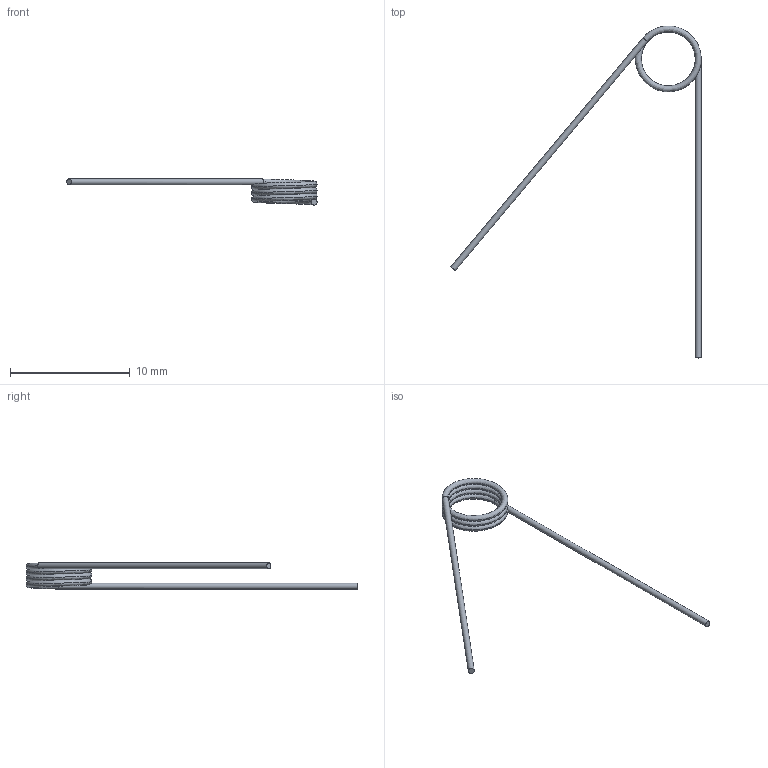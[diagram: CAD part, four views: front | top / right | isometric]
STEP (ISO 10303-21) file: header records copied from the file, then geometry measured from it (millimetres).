
FILE_DESCRIPTION(('modularis output'),'2;1');
FILE_NAME('T-16141R.stp','15:27:07 2002/10/16',( 'modularis software ag'),('modularis software ag'), 'unknown preprocess','ACIS','unknown authorization');
FILE_SCHEMA(('CONFIG_CONTROL_DESIGN {UNKNOWN IMPLEMENTATION LEVEL}'));
Length unit declared in the file: millimetre
Products named in the file (1): PRODUCT_ID_1
Bounding box: 20.93 x 27.75 x 2.19 mm (x, y, z)
Volume: 20.2 mm3; surface area: 163.5 mm2
Topology: 3 solids, 5 shells, 21 faces, 46 edges, 31 vertices
Faces by surface type: plane 8, cylinder 7, bspline 6
Full cylindrical faces by diameter (mm): 0.5 x2
Entity records: 1865 total; most frequent: CARTESIAN_POINT 1486, ORIENTED_EDGE 72, EDGE_CURVE 36, DIRECTION 33, VERTEX_POINT 27, EDGE_LOOP 23, FACE_BOUND 23, ADVANCED_FACE 19
